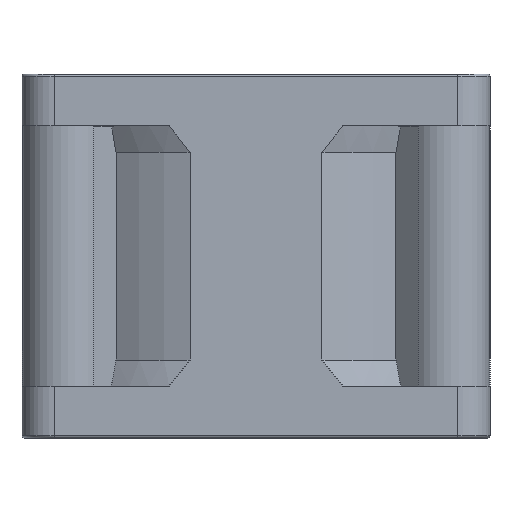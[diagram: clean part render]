
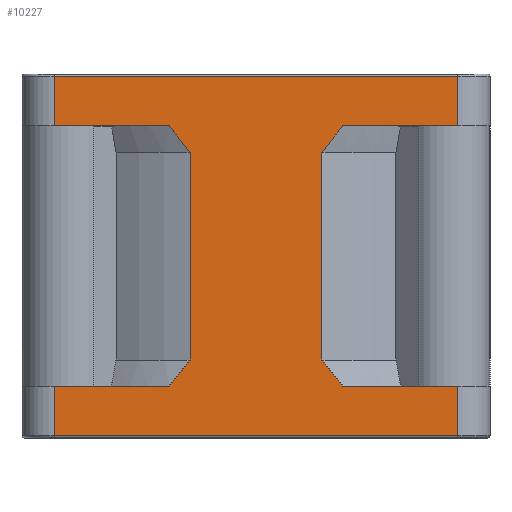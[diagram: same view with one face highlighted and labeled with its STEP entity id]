
A CAD part, front view. The second image highlights one B-rep face of the part: STEP entity #10227.
In plain terms, the highlighted planar face has unit normal (0, -1, 0).
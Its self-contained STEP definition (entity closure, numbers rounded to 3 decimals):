
#5474=CARTESIAN_POINT('',(-5.069,-18.0,6.0));
#5475=VERTEX_POINT('',#5474);
#5491=CARTESIAN_POINT('',(-6.681,-18.,4.0));
#5492=VERTEX_POINT('',#5491);
#5500=CARTESIAN_POINT('',(-5.069,-18.0,6.0));
#5501=CARTESIAN_POINT('',(-5.254,-18.0,5.799));
#5502=CARTESIAN_POINT('',(-5.819,-18.,5.154));
#5503=CARTESIAN_POINT('',(-6.341,-18.0,4.473));
#5504=CARTESIAN_POINT('',(-6.681,-18.0,4.0));
#5505=B_SPLINE_CURVE_WITH_KNOTS('',3,(#5500,#5501,#5502,#5503,#5504),.UNSPECIFIED.,.F.,.U.,(4,1,4),(0.0,0.821,2.571),.UNSPECIFIED.);
#5506=EDGE_CURVE('',#5475,#5492,#5505,.T.);
#5578=CARTESIAN_POINT('',(6.681,-18.0,4.0));
#5579=VERTEX_POINT('',#5578);
#5597=CARTESIAN_POINT('',(5.069,-18.0,6.0));
#5598=VERTEX_POINT('',#5597);
#5606=CARTESIAN_POINT('',(6.681,-18.0,4.0));
#5607=CARTESIAN_POINT('',(6.341,-18.0,4.473));
#5608=CARTESIAN_POINT('',(5.819,-18.,5.154));
#5609=CARTESIAN_POINT('',(5.254,-18.0,5.799));
#5610=CARTESIAN_POINT('',(5.069,-18.0,6.0));
#5611=B_SPLINE_CURVE_WITH_KNOTS('',3,(#5606,#5607,#5608,#5609,#5610),.UNSPECIFIED.,.F.,.U.,(4,1,4),(0.0,1.749,2.571),.UNSPECIFIED.);
#5612=EDGE_CURVE('',#5579,#5598,#5611,.T.);
#5794=CARTESIAN_POINT('',(-5.069,-18.0,22.));
#5795=VERTEX_POINT('',#5794);
#5810=CARTESIAN_POINT('',(-5.069,-18.0,22.));
#5811=DIRECTION('',(0.0,0.0,-1.0));
#5812=VECTOR('',#5811,16.);
#5813=LINE('',#5810,#5812);
#5814=EDGE_CURVE('',#5795,#5475,#5813,.T.);
#5865=CARTESIAN_POINT('',(5.069,-18.0,22.));
#5866=VERTEX_POINT('',#5865);
#5874=CARTESIAN_POINT('',(5.069,-18.0,6.0));
#5875=DIRECTION('',(0.0,0.0,1.0));
#5876=VECTOR('',#5875,16.);
#5877=LINE('',#5874,#5876);
#5878=EDGE_CURVE('',#5598,#5866,#5877,.T.);
#6049=CARTESIAN_POINT('',(-6.681,-18.,24.));
#6050=VERTEX_POINT('',#6049);
#6065=CARTESIAN_POINT('',(-6.681,-18.0,24.0));
#6066=CARTESIAN_POINT('',(-6.534,-18.0,23.796));
#6067=CARTESIAN_POINT('',(-6.025,-18.,23.107));
#6068=CARTESIAN_POINT('',(-5.479,-18.0,22.445));
#6069=CARTESIAN_POINT('',(-5.069,-18.0,22.));
#6070=B_SPLINE_CURVE_WITH_KNOTS('',3,(#6065,#6066,#6067,#6068,#6069),.UNSPECIFIED.,.F.,.U.,(4,1,4),(0.0,0.755,2.571),.UNSPECIFIED.);
#6071=EDGE_CURVE('',#6050,#5795,#6070,.T.);
#6142=CARTESIAN_POINT('',(6.681,-18.0,24.));
#6143=VERTEX_POINT('',#6142);
#6151=CARTESIAN_POINT('',(5.069,-18.0,22.));
#6152=CARTESIAN_POINT('',(5.479,-18.0,22.445));
#6153=CARTESIAN_POINT('',(6.025,-18.,23.107));
#6154=CARTESIAN_POINT('',(6.534,-18.0,23.796));
#6155=CARTESIAN_POINT('',(6.681,-18.0,24.0));
#6156=B_SPLINE_CURVE_WITH_KNOTS('',3,(#6151,#6152,#6153,#6154,#6155),.UNSPECIFIED.,.F.,.U.,(4,1,4),(0.0,1.816,2.571),.UNSPECIFIED.);
#6157=EDGE_CURVE('',#5866,#6143,#6156,.T.);
#6309=CARTESIAN_POINT('',(15.5,-18.0,24.));
#6310=VERTEX_POINT('',#6309);
#6320=CARTESIAN_POINT('',(15.5,-18.0,24.));
#6321=DIRECTION('',(-1.0,0.0,0.0));
#6322=VECTOR('',#6321,8.819);
#6323=LINE('',#6320,#6322);
#6324=EDGE_CURVE('',#6310,#6143,#6323,.T.);
#6479=CARTESIAN_POINT('',(15.5,-18.0,4.0));
#6480=VERTEX_POINT('',#6479);
#6519=CARTESIAN_POINT('',(15.5,-18.0,4.0));
#6520=DIRECTION('',(-1.0,0.0,0.0));
#6521=VECTOR('',#6520,8.819);
#6522=LINE('',#6519,#6521);
#6523=EDGE_CURVE('',#6480,#5579,#6522,.T.);
#6589=CARTESIAN_POINT('',(-15.5,-18.0,24.));
#6590=VERTEX_POINT('',#6589);
#6591=CARTESIAN_POINT('',(-6.681,-18.,24.));
#6592=DIRECTION('',(-1.0,0.0,0.0));
#6593=VECTOR('',#6592,8.819);
#6594=LINE('',#6591,#6593);
#6595=EDGE_CURVE('',#6050,#6590,#6594,.T.);
#6772=CARTESIAN_POINT('',(-15.5,-18.0,4.0));
#6773=VERTEX_POINT('',#6772);
#6774=CARTESIAN_POINT('',(-6.681,-18.,4.0));
#6775=DIRECTION('',(-1.0,0.0,0.0));
#6776=VECTOR('',#6775,8.819);
#6777=LINE('',#6774,#6776);
#6778=EDGE_CURVE('',#5492,#6773,#6777,.T.);
#9292=CARTESIAN_POINT('',(-15.5,-18.0,27.8));
#9293=VERTEX_POINT('',#9292);
#9294=CARTESIAN_POINT('',(-15.5,-18.0,24.));
#9295=DIRECTION('',(0.0,0.0,1.0));
#9296=VECTOR('',#9295,3.8);
#9297=LINE('',#9294,#9296);
#9298=EDGE_CURVE('',#6590,#9293,#9297,.T.);
#9325=CARTESIAN_POINT('',(15.5,-18.0,27.8));
#9326=VERTEX_POINT('',#9325);
#9334=CARTESIAN_POINT('',(15.5,-18.0,24.));
#9335=DIRECTION('',(0.0,0.0,1.0));
#9336=VECTOR('',#9335,3.8);
#9337=LINE('',#9334,#9336);
#9338=EDGE_CURVE('',#6310,#9326,#9337,.T.);
#9654=CARTESIAN_POINT('',(15.5,-18.0,27.8));
#9655=DIRECTION('',(-1.0,0.0,0.0));
#9656=VECTOR('',#9655,31.0);
#9657=LINE('',#9654,#9656);
#9658=EDGE_CURVE('',#9326,#9293,#9657,.T.);
#10173=CARTESIAN_POINT('',(15.5,-18.0,0.2));
#10174=VERTEX_POINT('',#10173);
#10175=CARTESIAN_POINT('',(15.5,-18.0,0.2));
#10176=DIRECTION('',(0.0,0.0,1.0));
#10177=VECTOR('',#10176,3.8);
#10178=LINE('',#10175,#10177);
#10179=EDGE_CURVE('',#10174,#6480,#10178,.T.);
#10192=CARTESIAN_POINT('',(-15.5,-18.0,0.));
#10193=DIRECTION('',(0.0,-1.0,0.0));
#10194=DIRECTION('',(1.0,0.0,0.0));
#10195=AXIS2_PLACEMENT_3D('',#10192,#10193,#10194);
#10196=PLANE('',#10195);
#10197=ORIENTED_EDGE('',*,*,#6523,.T.);
#10198=ORIENTED_EDGE('',*,*,#5612,.T.);
#10199=ORIENTED_EDGE('',*,*,#5878,.T.);
#10200=ORIENTED_EDGE('',*,*,#6157,.T.);
#10201=ORIENTED_EDGE('',*,*,#6324,.F.);
#10202=ORIENTED_EDGE('',*,*,#9338,.T.);
#10203=ORIENTED_EDGE('',*,*,#9658,.T.);
#10204=ORIENTED_EDGE('',*,*,#9298,.F.);
#10205=ORIENTED_EDGE('',*,*,#6595,.F.);
#10206=ORIENTED_EDGE('',*,*,#6071,.T.);
#10207=ORIENTED_EDGE('',*,*,#5814,.T.);
#10208=ORIENTED_EDGE('',*,*,#5506,.T.);
#10209=ORIENTED_EDGE('',*,*,#6778,.T.);
#10210=CARTESIAN_POINT('',(-15.5,-18.0,0.2));
#10211=VERTEX_POINT('',#10210);
#10212=CARTESIAN_POINT('',(-15.5,-18.0,0.2));
#10213=DIRECTION('',(0.0,0.0,1.0));
#10214=VECTOR('',#10213,3.8);
#10215=LINE('',#10212,#10214);
#10216=EDGE_CURVE('',#10211,#6773,#10215,.T.);
#10217=ORIENTED_EDGE('',*,*,#10216,.F.);
#10218=CARTESIAN_POINT('',(15.5,-18.0,0.2));
#10219=DIRECTION('',(-1.0,0.0,0.0));
#10220=VECTOR('',#10219,31.0);
#10221=LINE('',#10218,#10220);
#10222=EDGE_CURVE('',#10174,#10211,#10221,.T.);
#10223=ORIENTED_EDGE('',*,*,#10222,.F.);
#10224=ORIENTED_EDGE('',*,*,#10179,.T.);
#10225=EDGE_LOOP('',(#10197,#10198,#10199,#10200,#10201,#10202,#10203,#10204,#10205,#10206,#10207,#10208,#10209,#10217,#10223,#10224));
#10226=FACE_OUTER_BOUND('',#10225,.T.);
#10227=ADVANCED_FACE('',(#10226),#10196,.T.);
